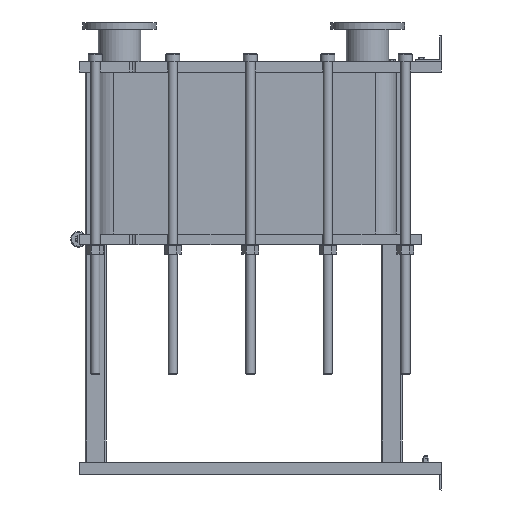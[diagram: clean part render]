
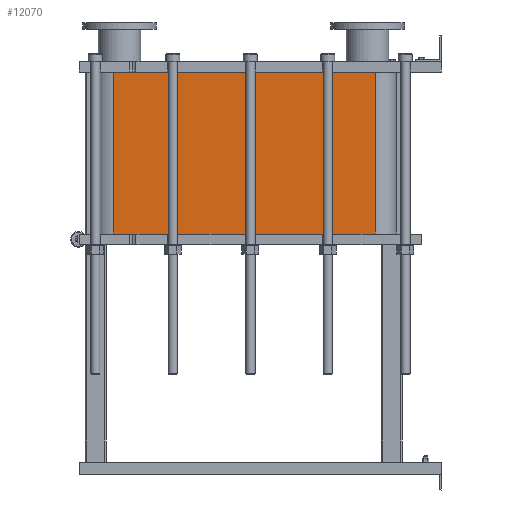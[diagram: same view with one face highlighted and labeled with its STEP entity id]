
A CAD part, left-side view. The second image highlights one B-rep face of the part: STEP entity #12070.
In plain terms, the highlighted planar face has unit normal (-1, 0, 0).
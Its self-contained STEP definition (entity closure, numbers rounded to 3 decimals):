
#1064=LINE('',#21140,#2164);
#1065=LINE('',#21144,#2165);
#1066=LINE('',#21146,#2166);
#1067=LINE('',#21147,#2167);
#2164=VECTOR('',#15790,10.);
#2165=VECTOR('',#15795,10.);
#2166=VECTOR('',#15796,10.);
#2167=VECTOR('',#15797,10.);
#3304=FACE_OUTER_BOUND('',#4091,.T.);
#4091=EDGE_LOOP('',(#9793,#9794,#9795,#9796));
#5677=VERTEX_POINT('',#21137);
#5678=VERTEX_POINT('',#21139);
#5679=VERTEX_POINT('',#21143);
#5680=VERTEX_POINT('',#21145);
#7118=EDGE_CURVE('',#5678,#5677,#1064,.T.);
#7120=EDGE_CURVE('',#5677,#5679,#1065,.T.);
#7121=EDGE_CURVE('',#5680,#5679,#1066,.T.);
#7122=EDGE_CURVE('',#5680,#5678,#1067,.T.);
#9793=ORIENTED_EDGE('',*,*,#7120,.T.);
#9794=ORIENTED_EDGE('',*,*,#7121,.F.);
#9795=ORIENTED_EDGE('',*,*,#7122,.T.);
#9796=ORIENTED_EDGE('',*,*,#7118,.T.);
#11441=PLANE('',#13191);
#12070=ADVANCED_FACE('',(#3304),#11441,.T.);
#13191=AXIS2_PLACEMENT_3D('',#21142,#15793,#15794);
#15790=DIRECTION('',(0.,0.,-1.));
#15793=DIRECTION('center_axis',(-1.,0.,0.));
#15794=DIRECTION('ref_axis',(0.,1.,0.));
#15795=DIRECTION('',(0.,-1.,0.));
#15796=DIRECTION('',(0.,0.,-1.));
#15797=DIRECTION('',(0.,1.,0.));
#21137=CARTESIAN_POINT('',(-248.152,1243.818,-614.1));
#21139=CARTESIAN_POINT('',(-248.152,1243.818,0.));
#21140=CARTESIAN_POINT('',(-248.152,1243.818,0.));
#21142=CARTESIAN_POINT('Origin',(-248.152,251.818,0.));
#21143=CARTESIAN_POINT('',(-248.152,251.818,-614.1));
#21144=CARTESIAN_POINT('',(-248.152,499.818,-614.1));
#21145=CARTESIAN_POINT('',(-248.152,251.818,0.));
#21146=CARTESIAN_POINT('',(-248.152,251.818,0.));
#21147=CARTESIAN_POINT('',(-248.152,251.818,0.));
